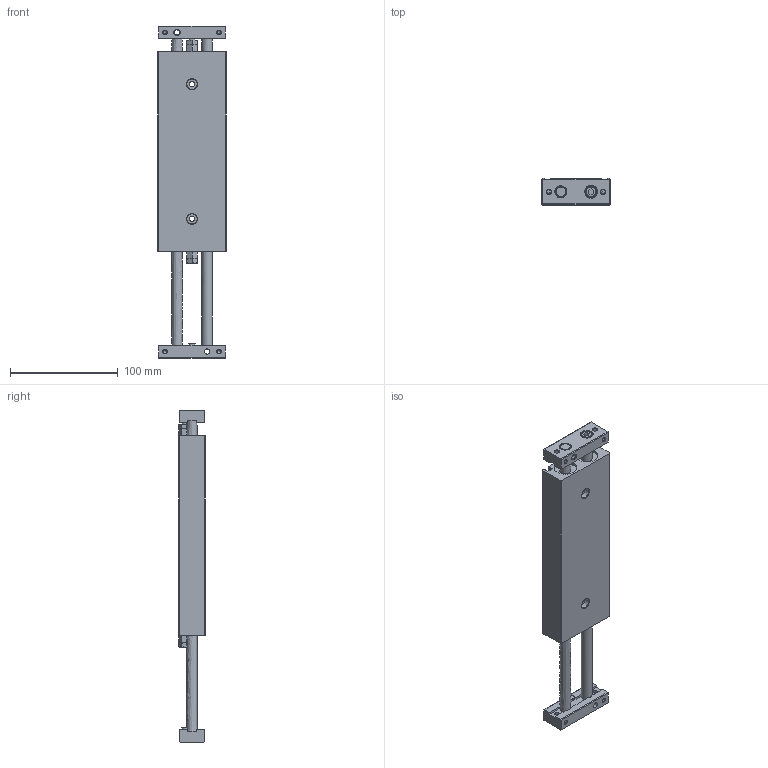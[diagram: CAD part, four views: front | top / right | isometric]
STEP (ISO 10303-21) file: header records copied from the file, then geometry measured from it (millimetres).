
FILE_DESCRIPTION((''),'2;1');
FILE_NAME('I:\3D電子目錄\氣缸\STX\STX\STX20\STX20x75.stp','2007-10-02T08:32:40',('Administrator'),(''),'Autodesk Inventor 11','Autodesk Inventor 11','');
FILE_SCHEMA(('AUTOMOTIVE_DESIGN { 1 0 10303 214 1 1 1 1 }'));
Length unit declared in the file: millimetre
Products named in the file (1): STX20
Bounding box: 64 x 25 x 308 mm (x, y, z)
Volume: 324940.2 mm3; surface area: 63029.5 mm2
Topology: 1 solids, 1 shells, 277 faces, 685 edges, 425 vertices
Faces by surface type: plane 133, cone 75, bspline 42, cylinder 23, torus 4
Full cylindrical faces by diameter (mm): 3.242 x4, 6 x2, 9.5 x2, 10 x6, 10.2 x2, 11 x1, 11.2 x1, 21 x2, 22.2 x2
Entity records: 7915 total; most frequent: CARTESIAN_POINT 2261, DIRECTION 1108, ORIENTED_EDGE 1106, EDGE_CURVE 553, AXIS2_PLACEMENT_3D 424, EDGE_LOOP 408, VERTEX_POINT 381, FACE_OUTER_BOUND 276
